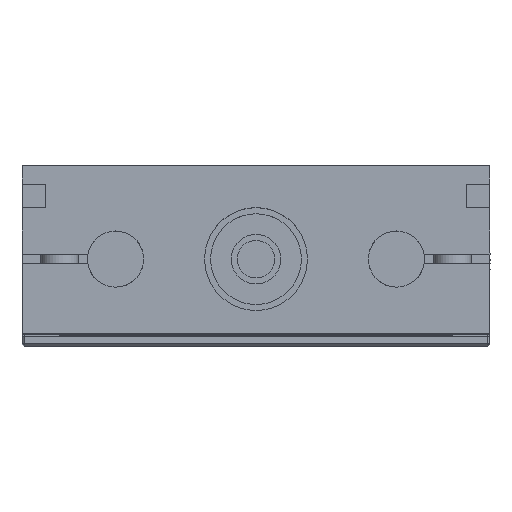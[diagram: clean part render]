
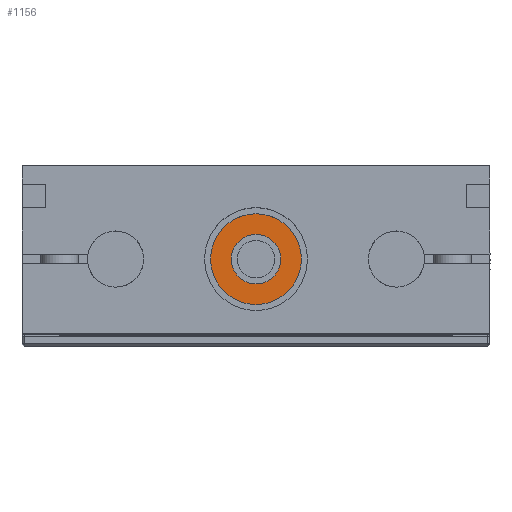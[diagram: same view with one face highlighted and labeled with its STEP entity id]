
A CAD part, top view. The second image highlights one B-rep face of the part: STEP entity #1156.
In plain terms, the highlighted planar face has unit normal (0, 0, 1) as drawn and (1, 0, 0) by its records, which use the part's own axes.
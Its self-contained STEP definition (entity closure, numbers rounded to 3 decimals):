
#1156 = ADVANCED_FACE ( 'NONE', ( #18136, #30268 ), #46372, .F. ) ;
#2272 = VERTEX_POINT ( 'NONE', #25429 ) ;
#3669 = VERTEX_POINT ( 'NONE', #16793 ) ;
#4399 = AXIS2_PLACEMENT_3D ( 'NONE', #50066, #13366, #13101 ) ;
#6166 = CARTESIAN_POINT ( 'NONE',  ( 349.5, 20., -5.3 ) ) ;
#6582 = ORIENTED_EDGE ( 'NONE', *, *, #10826, .F. ) ;
#8234 = CARTESIAN_POINT ( 'NONE',  ( 349.5, 20., 0. ) ) ;
#9388 = VERTEX_POINT ( 'NONE', #6166 ) ;
#9548 = ORIENTED_EDGE ( 'NONE', *, *, #38163, .F. ) ;
#10826 = EDGE_CURVE ( 'NONE', #2272, #33870, #17471, .T. ) ;
#11426 = DIRECTION ( 'NONE',  ( 0., 0., 1. ) ) ;
#13101 = DIRECTION ( 'NONE',  ( 0., 0., 1. ) ) ;
#13366 = DIRECTION ( 'NONE',  ( -1., 0., 0. ) ) ;
#15126 = DIRECTION ( 'NONE',  ( 0., 0., 1. ) ) ;
#16793 = CARTESIAN_POINT ( 'NONE',  ( 349.5, 20., 5.3 ) ) ;
#16896 = EDGE_LOOP ( 'NONE', ( #30283, #33066 ) ) ;
#17471 = CIRCLE ( 'NONE', #35977, 9.7 ) ;
#18136 = FACE_OUTER_BOUND ( 'NONE', #30943, .T. ) ;
#18380 = CIRCLE ( 'NONE', #49562, 5.3 ) ;
#22073 = DIRECTION ( 'NONE',  ( -1., 0., 0. ) ) ;
#23713 = DIRECTION ( 'NONE',  ( 0., 0., 1. ) ) ;
#24612 = AXIS2_PLACEMENT_3D ( 'NONE', #51310, #22073, #15126 ) ;
#25429 = CARTESIAN_POINT ( 'NONE',  ( 349.5, 20., 9.7 ) ) ;
#28432 = DIRECTION ( 'NONE',  ( -1., 0., 0. ) ) ;
#28844 = CIRCLE ( 'NONE', #24612, 9.7 ) ;
#29712 = CIRCLE ( 'NONE', #4399, 5.3 ) ;
#30268 = FACE_BOUND ( 'NONE', #16896, .T. ) ;
#30283 = ORIENTED_EDGE ( 'NONE', *, *, #30546, .T. ) ;
#30546 = EDGE_CURVE ( 'NONE', #3669, #9388, #18380, .T. ) ;
#30943 = EDGE_LOOP ( 'NONE', ( #6582, #9548 ) ) ;
#33066 = ORIENTED_EDGE ( 'NONE', *, *, #43150, .T. ) ;
#33325 = CARTESIAN_POINT ( 'NONE',  ( 349.5, 20., -9.7 ) ) ;
#33870 = VERTEX_POINT ( 'NONE', #33325 ) ;
#35178 = DIRECTION ( 'NONE',  ( -1., 0., 0. ) ) ;
#35977 = AXIS2_PLACEMENT_3D ( 'NONE', #8234, #35178, #11426 ) ;
#38163 = EDGE_CURVE ( 'NONE', #33870, #2272, #28844, .T. ) ;
#40503 = AXIS2_PLACEMENT_3D ( 'NONE', #46629, #42924, #51125 ) ;
#40572 = CARTESIAN_POINT ( 'NONE',  ( 349.5, 20., 0. ) ) ;
#42924 = DIRECTION ( 'NONE',  ( -1., 0., 0. ) ) ;
#43150 = EDGE_CURVE ( 'NONE', #9388, #3669, #29712, .T. ) ;
#46372 = PLANE ( 'NONE',  #40503 ) ;
#46629 = CARTESIAN_POINT ( 'NONE',  ( 349.5, 25.3, 0. ) ) ;
#49562 = AXIS2_PLACEMENT_3D ( 'NONE', #40572, #28432, #23713 ) ;
#50066 = CARTESIAN_POINT ( 'NONE',  ( 349.5, 20., 0. ) ) ;
#51125 = DIRECTION ( 'NONE',  ( 0., 0., 1. ) ) ;
#51310 = CARTESIAN_POINT ( 'NONE',  ( 349.5, 20., 0. ) ) ;
